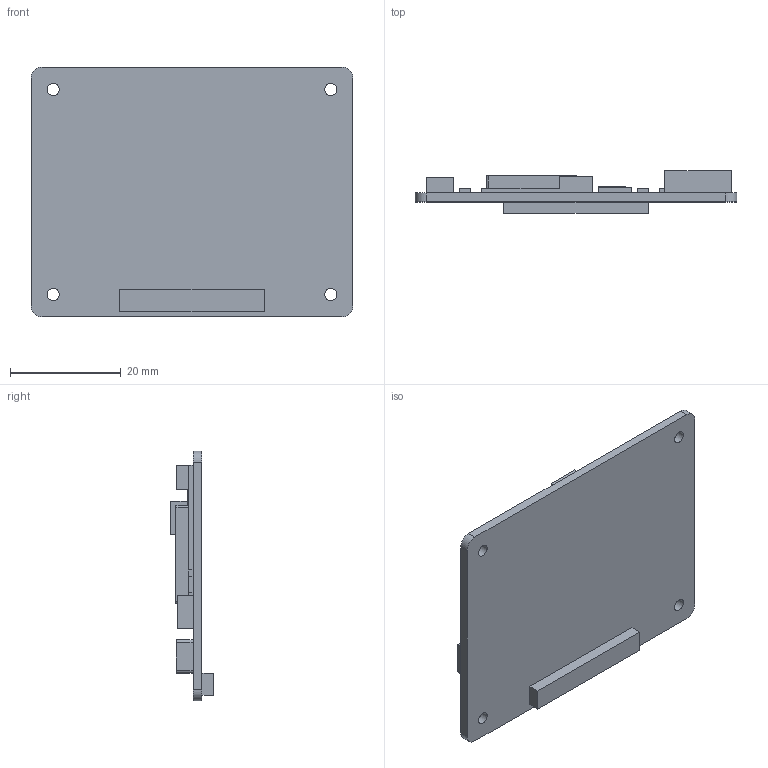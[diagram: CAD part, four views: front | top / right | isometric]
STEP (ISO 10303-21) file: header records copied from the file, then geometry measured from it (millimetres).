
FILE_DESCRIPTION(('Open CASCADE Model'),'2;1');
FILE_NAME('Open CASCADE Shape Model','2026-11-01T16:33:54',('Author'),( 'Open CASCADE'),'Open CASCADE STEP processor 8.0','build123d', 'Unknown');
FILE_SCHEMA(('AUTOMOTIVE_DESIGN { 1 0 10303 214 1 1 1 1 }'));
Length unit declared in the file: millimetre
Products named in the file (1): SOLID
Bounding box: 58 x 7.6 x 45 mm (x, y, z)
Volume: 6089.7 mm3; surface area: 6362.2 mm2
Topology: 1 solids, 1 shells, 96 faces, 240 edges, 160 vertices
Faces by surface type: plane 80, cylinder 16
Full cylindrical faces by diameter (mm): 2.2 x4
Entity records: 6012 total; most frequent: CARTESIAN_POINT 1055, DIRECTION 928, LINE 650, VECTOR 650, ORIENTED_EDGE 480, PCURVE 480, DEFINITIONAL_REPRESENTATION 480, EDGE_CURVE 240
